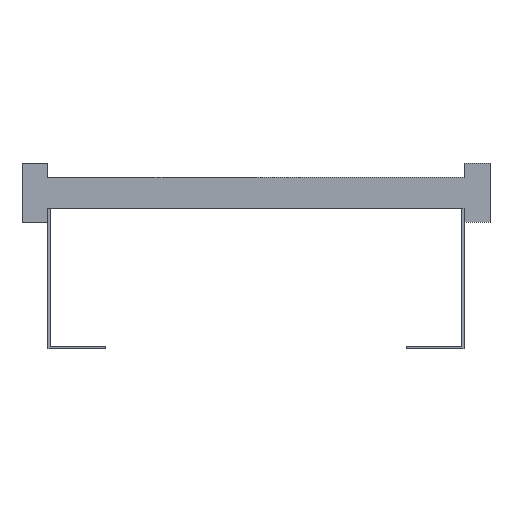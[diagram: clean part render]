
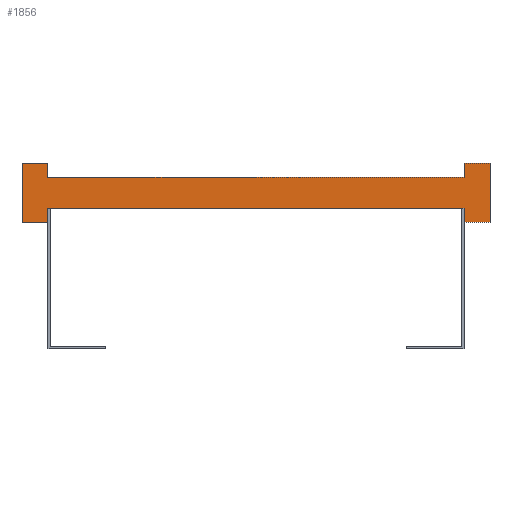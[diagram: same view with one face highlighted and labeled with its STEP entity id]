
A CAD part, front view. The second image highlights one B-rep face of the part: STEP entity #1856.
In plain terms, the highlighted planar face has unit normal (0, -1, 0).
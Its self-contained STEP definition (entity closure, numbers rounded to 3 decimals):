
#1=DIRECTION('',(0.,0.,1.));
#2=VECTOR('',#1,13.5);
#3=CARTESIAN_POINT('',(200.,0.,-28.5));
#4=LINE('',#3,#2);
#5=DIRECTION('',(0.,0.,-1.));
#6=VECTOR('',#5,13.5);
#7=CARTESIAN_POINT('',(-200.,0.,-15.));
#8=LINE('',#7,#6);
#9=DIRECTION('',(-1.,0.,0.));
#10=VECTOR('',#9,25.);
#11=CARTESIAN_POINT('',(-200.,0.,-28.5));
#12=LINE('',#11,#10);
#13=DIRECTION('',(0.,0.,1.));
#14=VECTOR('',#13,57.);
#15=CARTESIAN_POINT('',(-225.,0.,-28.5));
#16=LINE('',#15,#14);
#17=DIRECTION('',(1.,0.,0.));
#18=VECTOR('',#17,25.);
#19=CARTESIAN_POINT('',(-225.,0.,28.5));
#20=LINE('',#19,#18);
#21=DIRECTION('',(0.,0.,-1.));
#22=VECTOR('',#21,13.5);
#23=CARTESIAN_POINT('',(-200.,0.,28.5));
#24=LINE('',#23,#22);
#25=DIRECTION('',(0.,0.,1.));
#26=VECTOR('',#25,13.5);
#27=CARTESIAN_POINT('',(200.,0.,15.));
#28=LINE('',#27,#26);
#29=DIRECTION('',(1.,0.,0.));
#30=VECTOR('',#29,25.);
#31=CARTESIAN_POINT('',(200.,0.,28.5));
#32=LINE('',#31,#30);
#33=DIRECTION('',(0.,0.,-1.));
#34=VECTOR('',#33,57.);
#35=CARTESIAN_POINT('',(225.,0.,28.5));
#36=LINE('',#35,#34);
#37=DIRECTION('',(-1.,0.,0.));
#38=VECTOR('',#37,25.);
#39=CARTESIAN_POINT('',(225.,0.,-28.5));
#40=LINE('',#39,#38);
#1361=DIRECTION('',(1.,0.,0.));
#1362=VECTOR('',#1361,400.);
#1363=CARTESIAN_POINT('',(-200.,0.,-15.));
#1364=LINE('',#1363,#1362);
#1373=DIRECTION('',(1.,0.,0.));
#1374=VECTOR('',#1373,400.);
#1375=CARTESIAN_POINT('',(-200.,0.,15.));
#1376=LINE('',#1375,#1374);
#1377=CARTESIAN_POINT('',(-225.,0.,28.5));
#1378=CARTESIAN_POINT('',(-200.,0.,28.5));
#1379=VERTEX_POINT('',#1377);
#1380=VERTEX_POINT('',#1378);
#1381=CARTESIAN_POINT('',(-200.,0.,-28.5));
#1382=CARTESIAN_POINT('',(-225.,0.,-28.5));
#1383=VERTEX_POINT('',#1381);
#1384=VERTEX_POINT('',#1382);
#1385=CARTESIAN_POINT('',(225.,0.,28.5));
#1386=CARTESIAN_POINT('',(225.,0.,-28.5));
#1387=VERTEX_POINT('',#1385);
#1388=VERTEX_POINT('',#1386);
#1389=CARTESIAN_POINT('',(200.,0.,-28.5));
#1390=VERTEX_POINT('',#1389);
#1391=CARTESIAN_POINT('',(200.,0.,28.5));
#1392=VERTEX_POINT('',#1391);
#1409=CARTESIAN_POINT('',(-200.,0.,-15.));
#1411=VERTEX_POINT('',#1409);
#1413=CARTESIAN_POINT('',(-200.,0.,15.));
#1415=VERTEX_POINT('',#1413);
#1417=CARTESIAN_POINT('',(200.,0.,-15.));
#1419=VERTEX_POINT('',#1417);
#1421=CARTESIAN_POINT('',(200.,0.,15.));
#1423=VERTEX_POINT('',#1421);
#1825=CARTESIAN_POINT('',(0.,0.,0.));
#1826=DIRECTION('',(0.,1.,0.));
#1827=DIRECTION('',(1.,0.,0.));
#1828=AXIS2_PLACEMENT_3D('',#1825,#1826,#1827);
#1829=PLANE('',#1828);
#1831=ORIENTED_EDGE('',*,*,#1830,.T.);
#1833=ORIENTED_EDGE('',*,*,#1832,.F.);
#1835=ORIENTED_EDGE('',*,*,#1834,.T.);
#1837=ORIENTED_EDGE('',*,*,#1836,.T.);
#1839=ORIENTED_EDGE('',*,*,#1838,.T.);
#1841=ORIENTED_EDGE('',*,*,#1840,.T.);
#1843=ORIENTED_EDGE('',*,*,#1842,.T.);
#1845=ORIENTED_EDGE('',*,*,#1844,.T.);
#1847=ORIENTED_EDGE('',*,*,#1846,.T.);
#1849=ORIENTED_EDGE('',*,*,#1848,.T.);
#1851=ORIENTED_EDGE('',*,*,#1850,.T.);
#1853=ORIENTED_EDGE('',*,*,#1852,.T.);
#1854=EDGE_LOOP('',(#1831,#1833,#1835,#1837,#1839,#1841,#1843,#1845,#1847,#1849,
#1851,#1853));
#1855=FACE_OUTER_BOUND('',#1854,.F.);
#1856=ADVANCED_FACE('',(#1855),#1829,.F.);
#1830=EDGE_CURVE('',#1390,#1419,#4,.T.);
#1832=EDGE_CURVE('',#1411,#1419,#1364,.T.);
#1834=EDGE_CURVE('',#1411,#1383,#8,.T.);
#1836=EDGE_CURVE('',#1383,#1384,#12,.T.);
#1838=EDGE_CURVE('',#1384,#1379,#16,.T.);
#1840=EDGE_CURVE('',#1379,#1380,#20,.T.);
#1842=EDGE_CURVE('',#1380,#1415,#24,.T.);
#1844=EDGE_CURVE('',#1415,#1423,#1376,.T.);
#1846=EDGE_CURVE('',#1423,#1392,#28,.T.);
#1848=EDGE_CURVE('',#1392,#1387,#32,.T.);
#1850=EDGE_CURVE('',#1387,#1388,#36,.T.);
#1852=EDGE_CURVE('',#1388,#1390,#40,.T.);
